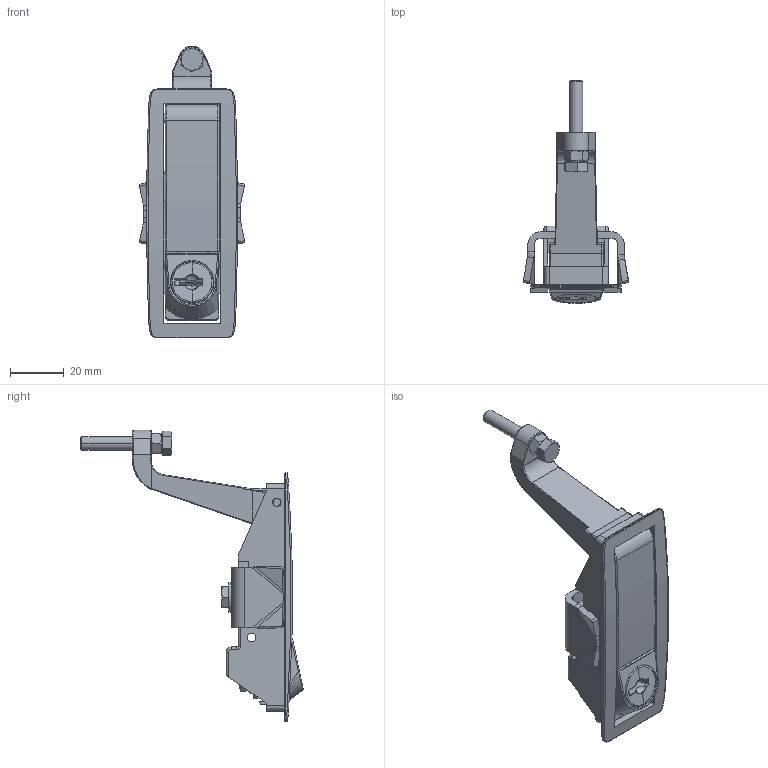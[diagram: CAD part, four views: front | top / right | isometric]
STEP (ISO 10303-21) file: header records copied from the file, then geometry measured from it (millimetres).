
FILE_DESCRIPTION (( 'STEP AP214' ), '1' );
FILE_NAME ('2814-030609-2346_Industrilas.step', '2026-05-27T01:27:48', ( '' ), ( '' ), 'SwSTEP 2.0', 'SolidWorks 2010', '' );
FILE_SCHEMA (( 'AUTOMOTIVE_DESIGN' ));
Length unit declared in the file: millimetre
Products named in the file (8): House; Inserts; Insert-2; Screw; Nut; Screw-2; Lock-Insert; 2814-030609-2346_Industrilas
Assembly tree (7 placements, depth 2):
  2814-030609-2346_Industrilas
    Inserts
    House
    Nut
    Screw-2
    Lock-Insert
    Screw
    Insert-2
Bounding box: 39.36 x 82.99 x 109 mm (x, y, z)
Volume: 28377 mm3; surface area: 31149.1 mm2
Topology: 9 solids, 9 shells, 799 faces, 2100 edges, 1319 vertices
Faces by surface type: plane 434, cylinder 196, bspline 97, cone 46, torus 20, sphere 6
Entity records: 28363 total; most frequent: CARTESIAN_POINT 9340, ORIENTED_EDGE 4190, DIRECTION 3522, EDGE_CURVE 2095, VERTEX_POINT 1319, VECTOR 1242, LINE 1242, AXIS2_PLACEMENT_3D 1140
